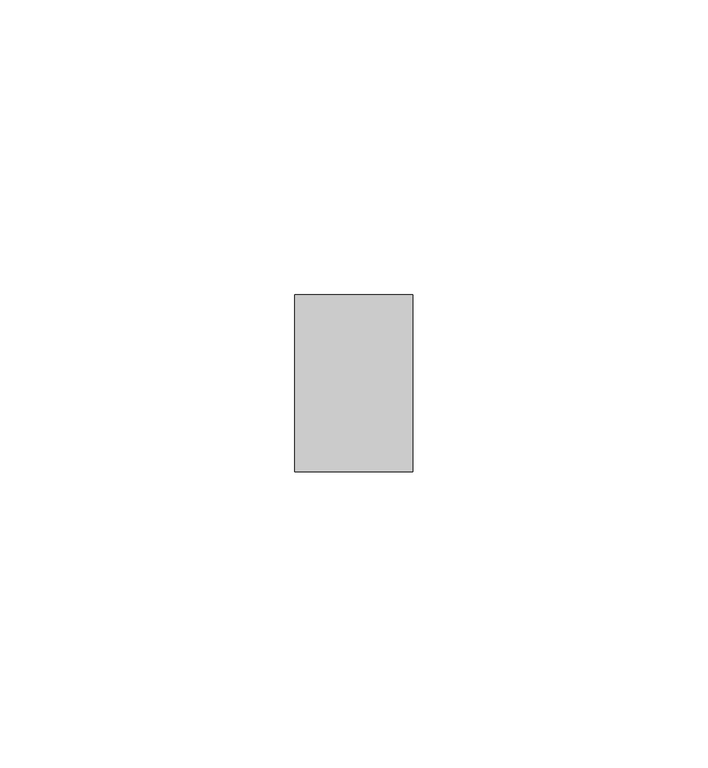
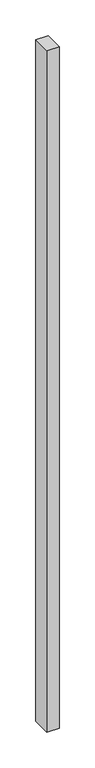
"""IFC4 building model written with IfcOpenShell, lengths in millimetres: member geometry, Прямоугольный импост : Квадрат 10 мм - Зазор между навесными плитами."""

import ifcopenshell
import ifcopenshell.guid

model = None  # the IFC model being written
_history = None  # IfcOwnerHistory: only IFC2X3 demands one
_inside = {}  # id of a spatial element -> (the spatial element, [elements in it])
_under = {}  # id of a project, library or spatial element -> (it, [spatial elements below it])
_declared = {}  # id of a project -> (the project, [libraries it declares])
_typed = {}  # id of a type object -> (the type object, [elements of that type])
_made_of = {}  # id of a material, layer set ... -> (it, [elements and type objects made of it])


def new_model(schema):
    """Start an empty IFC model of exactly this schema.

    Asked for "IFC4X3", IfcOpenShell would pick the latest addendum, in which some entities
    have other attributes; the version numbers below select the first issue.
    IFC2X3 requires an IfcOwnerHistory on every rooted entity: one is made here for all.
    """
    global model, _history
    if schema == "IFC4X3":
        model = ifcopenshell.file(schema_version=(4, 3, 0, 0))
    else:
        model = ifcopenshell.file(schema=schema)
    _inside.clear()
    _under.clear()
    _declared.clear()
    _typed.clear()
    _made_of.clear()
    _history = None
    if model.schema == "IFC2X3":
        org = make("IfcOrganization", Name="unknown")
        user = make(
            "IfcPersonAndOrganization",
            ThePerson=make("IfcPerson", FamilyName="unknown"),
            TheOrganization=org,
        )
        app = make(
            "IfcApplication",
            ApplicationDeveloper=org,
            Version="unknown",
            ApplicationFullName="unknown",
            ApplicationIdentifier="unknown",
        )
        _history = make(
            "IfcOwnerHistory",
            OwningUser=user,
            OwningApplication=app,
            ChangeAction="ADDED",
            CreationDate=0,
        )
    return model


def make(cls, **values):
    """One entity of the class cls with the attributes given. An attribute that is None is left unset."""
    return model.create_entity(
        cls, **{name: value for name, value in values.items() if value is not None}
    )


def rooted(cls, **values):
    """An entity with a GlobalId (a new one), such as an element, a storey or a relation."""
    return make(cls, GlobalId=ifcopenshell.guid.new(), OwnerHistory=_history, **values)


def si_unit(unit_type, name, prefix=None):
    """IfcSIUnit, for example si_unit("LENGTHUNIT", "METRE", prefix="MILLI")."""
    return make("IfcSIUnit", UnitType=unit_type, Prefix=prefix, Name=name)


def assignment(units):
    """IfcUnitAssignment: the units of a project."""
    return None if units is None else make("IfcUnitAssignment", Units=units)


def point(xyz):
    """IfcCartesianPoint."""
    return None if xyz is None else make("IfcCartesianPoint", Coordinates=xyz)


def direction(xyz):
    """IfcDirection."""
    return None if xyz is None else make("IfcDirection", DirectionRatios=xyz)


def frame(location, z_axis=None, x_axis=None):
    """IfcAxis2Placement3D, a coordinate frame: its origin and axes. An axis left out is left unset."""
    return make(
        "IfcAxis2Placement3D",
        Location=point(location),
        Axis=direction(z_axis),
        RefDirection=direction(x_axis),
    )


def origin():
    """The frame at (0, 0, 0) with its axes left unset."""
    return frame((0.0, 0.0, 0.0))


def place(relative_to, where):
    """IfcLocalPlacement: puts the frame where relative to a parent placement (None: the world)."""
    return make(
        "IfcLocalPlacement", PlacementRelTo=relative_to, RelativePlacement=where
    )


def context(
    kind, dimensions, precision=None, world=None, true_north=None, identifier=None
):
    """IfcGeometricRepresentationContext, for example the 3D "Model" context."""
    return make(
        "IfcGeometricRepresentationContext",
        ContextIdentifier=identifier,
        ContextType=kind,
        CoordinateSpaceDimension=dimensions,
        Precision=precision,
        WorldCoordinateSystem=world,
        TrueNorth=true_north,
    )


def project(units=None, contexts=None):
    """IfcProject with its units and contexts."""
    return rooted(
        "IfcProject",
        Name="project",
        RepresentationContexts=contexts,
        UnitsInContext=assignment(units),
    )


def spatial(cls, under=None, at=None, **own):
    """A site, building, storey or space (cls), placed at a placement, below another one or the project."""
    s = rooted(cls, ObjectPlacement=at, **own)
    if under is not None:
        _under.setdefault(under.id(), (under, []))[1].append(s)
    return s


def polyline(points):
    """IfcPolyline through the points."""
    return make("IfcPolyline", Points=[point(p) for p in points])


def outline(outer, holes=None, kind="AREA"):
    """IfcArbitraryClosedProfileDef: a profile drawn as a closed curve; with holes, ...WithVoids."""
    if holes is None:
        return make("IfcArbitraryClosedProfileDef", ProfileType=kind, OuterCurve=outer)
    return make(
        "IfcArbitraryProfileDefWithVoids",
        ProfileType=kind,
        OuterCurve=outer,
        InnerCurves=holes,
    )


def extrude(swept, where, along, depth):
    """IfcExtrudedAreaSolid: the profile swept, set in the frame where, extruded along a direction by depth."""
    return make(
        "IfcExtrudedAreaSolid",
        SweptArea=swept,
        Position=where,
        ExtrudedDirection=direction(along),
        Depth=depth,
    )


def shape(context_of_items, identifier, shape_type, items):
    """IfcShapeRepresentation: the items that make up one representation, for example the "Body"."""
    return make(
        "IfcShapeRepresentation",
        ContextOfItems=context_of_items,
        RepresentationIdentifier=identifier,
        RepresentationType=shape_type,
        Items=items,
    )


def source(mapping_origin, context_of_items, identifier, shape_type, items):
    """IfcRepresentationMap: a shape defined once, which mapped items show again and again."""
    return make(
        "IfcRepresentationMap",
        MappingOrigin=mapping_origin,
        MappedRepresentation=shape(context_of_items, identifier, shape_type, items),
    )


def transform(
    local_origin,
    x_axis=None,
    y_axis=None,
    z_axis=None,
    scale=None,
    scale2=None,
    scale3=None,
    uniform=True,
):
    """IfcCartesianTransformationOperator3D, or its non-uniform kind. x_axis, y_axis, z_axis: its Axis1, 2, 3."""
    if uniform:
        return make(
            "IfcCartesianTransformationOperator3D",
            Axis1=direction(x_axis),
            Axis2=direction(y_axis),
            LocalOrigin=point(local_origin),
            Scale=scale,
            Axis3=direction(z_axis),
        )
    return make(
        "IfcCartesianTransformationOperator3DnonUniform",
        Axis1=direction(x_axis),
        Axis2=direction(y_axis),
        LocalOrigin=point(local_origin),
        Scale=scale,
        Axis3=direction(z_axis),
        Scale2=scale2,
        Scale3=scale3,
    )


def mapped(mapping_source, mapping_target):
    """IfcMappedItem: shows the shape of a source again, moved by a transform."""
    return make(
        "IfcMappedItem", MappingSource=mapping_source, MappingTarget=mapping_target
    )


def made_of(thing, what):
    """Note that an element or type object is made of a material, layer set ...; save() writes the relation."""
    if what is not None:
        _made_of.setdefault(what.id(), (what, []))[1].append(thing)
    return thing


def element(
    cls,
    number,
    at=None,
    inside=None,
    cuts=None,
    type_object=None,
    material=None,
    context=None,
    identifier="Body",
    shape_type=None,
    held_by="IfcProductDefinitionShape",
    body=None,
    shapes=None,
    **own,
):
    """One element of the class cls, such as IfcWall. Its Tag is "e" and its number.

    at: its placement. inside: the storey or other place that contains it. cuts: it is an
    opening in that element (IfcRelVoidsElement). A single representation is given by context,
    identifier, shape_type and body (its items); several are given by shapes. held_by: the class
    of the entity that holds the representations. save() writes the other relations.
    """
    e = rooted(cls, Tag="e%d" % number, ObjectPlacement=at, **own)
    if body is not None:
        shapes = [shape(context, identifier, shape_type, body)]
    if shapes is not None:
        e.Representation = make(held_by, Representations=shapes)
    if inside is not None:
        _inside.setdefault(inside.id(), (inside, []))[1].append(e)
    if cuts is not None:
        rooted(
            "IfcRelVoidsElement", RelatingBuildingElement=cuts, RelatedOpeningElement=e
        )
    if type_object is not None:
        _typed.setdefault(type_object.id(), (type_object, []))[1].append(e)
    return made_of(e, material)


def aggregate(whole, parts):
    """IfcRelAggregates: a whole, such as a stair, and the parts it consists of."""
    return rooted("IfcRelAggregates", RelatingObject=whole, RelatedObjects=parts)


def save(model, path):
    """Write the relations noted so far, then the file.

    IfcRelAggregates (storeys below a building ...), IfcRelContainedInSpatialStructure (elements
    in a storey), IfcRelDefinesByType, IfcRelAssociatesMaterial and IfcRelDeclares: one each for
    every whole, place, type object, material and project.
    """
    for whole, parts in _under.values():
        aggregate(whole, parts)
    for where, things in _inside.values():
        rooted(
            "IfcRelContainedInSpatialStructure",
            RelatedElements=things,
            RelatingStructure=where,
        )
    for kind, things in _typed.values():
        rooted("IfcRelDefinesByType", RelatedObjects=things, RelatingType=kind)
    for what, things in _made_of.values():
        rooted("IfcRelAssociatesMaterial", RelatedObjects=things, RelatingMaterial=what)
    for by, libraries in _declared.values():
        rooted("IfcRelDeclares", RelatingContext=by, RelatedDefinitions=libraries)
    model.write(path)


def member_87645dac(model_context):
    return source(origin(), model_context, "Body", "SweptSolid", [
        extrude(outline(polyline([(0.0, 15.0), (0.0, -15.0), (-20.0, -15.0), (-20.0, 15.0), (0.0, 15.0)])), frame((0.0, 0.0, -1160.0), z_axis=(0.0, 0.0, 1.0), x_axis=(1.0, 0.0, 0.0)), (0.0, 0.0, 1.0), 1160.0),
    ])


if __name__ == "__main__":
    model = new_model("IFC4")
    model_context = context("Model", 3, world=origin())
    ifc_project = project(units=[si_unit("LENGTHUNIT", "METRE", prefix="MILLI")], contexts=[model_context])
    site = spatial("IfcSite", under=ifc_project)
    building = spatial("IfcBuilding", under=site)
    placement = place(None, origin())
    member_shape = member_87645dac(model_context)
    element("IfcMember", 1, ObjectType="Прямоугольный импост : Квадрат 10 мм - Зазор между навесными плитами", at=placement, inside=building, context=model_context, shape_type="MappedRepresentation", body=[
        mapped(member_shape, transform((0.0, 0.0, 0.0), x_axis=(1.0, 0.0, 0.0), y_axis=(0.0, 1.0, 0.0), z_axis=(0.0, 0.0, 1.0))),
    ])
    save(model, "model.ifc")
